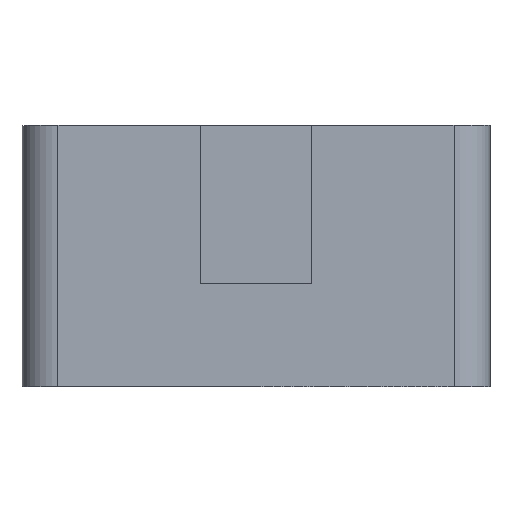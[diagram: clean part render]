
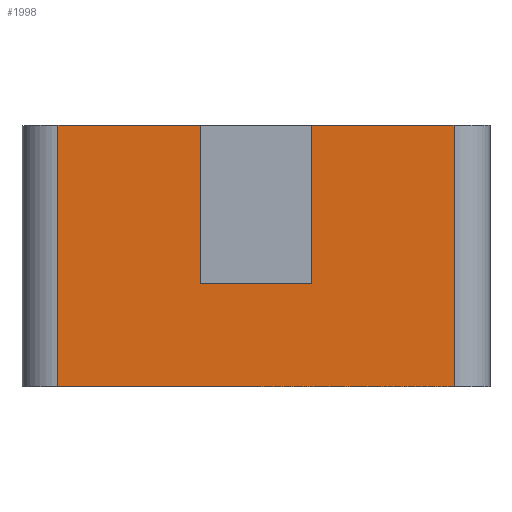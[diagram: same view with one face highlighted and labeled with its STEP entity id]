
A CAD part, left-side view. The second image highlights one B-rep face of the part: STEP entity #1998.
In plain terms, the highlighted planar face has unit normal (-1, 0, 0).
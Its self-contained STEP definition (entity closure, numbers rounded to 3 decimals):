
#44 = PLANE('',#45);
#45 = AXIS2_PLACEMENT_3D('',#46,#47,#48);
#46 = CARTESIAN_POINT('',(0.,0.,0.));
#47 = DIRECTION('',(0.,0.,1.));
#48 = DIRECTION('',(1.,0.,-0.));
#72 = CYLINDRICAL_SURFACE('',#73,4.);
#73 = AXIS2_PLACEMENT_3D('',#74,#75,#76);
#74 = CARTESIAN_POINT('',(-28.5,-22.,0.));
#75 = DIRECTION('',(0.,0.,1.));
#76 = DIRECTION('',(0.,-1.,0.));
#100 = PLANE('',#101);
#101 = AXIS2_PLACEMENT_3D('',#102,#103,#104);
#102 = CARTESIAN_POINT('',(0.,0.,29.));
#103 = DIRECTION('',(0.,0.,1.));
#104 = DIRECTION('',(1.,0.,-0.));
#475 = VERTEX_POINT('',#476);
#476 = CARTESIAN_POINT('',(-32.5,22.,0.));
#491 = CYLINDRICAL_SURFACE('',#492,4.);
#492 = AXIS2_PLACEMENT_3D('',#493,#494,#495);
#493 = CARTESIAN_POINT('',(-28.5,22.,0.));
#494 = DIRECTION('',(0.,0.,1.));
#495 = DIRECTION('',(-0.,1.,0.));
#503 = EDGE_CURVE('',#475,#504,#506,.T.);
#504 = VERTEX_POINT('',#505);
#505 = CARTESIAN_POINT('',(-32.5,-22.,0.));
#506 = SURFACE_CURVE('',#507,(#511,#518),.PCURVE_S1.);
#507 = LINE('',#508,#509);
#508 = CARTESIAN_POINT('',(-32.5,26.,0.));
#509 = VECTOR('',#510,1.);
#510 = DIRECTION('',(0.,-1.,0.));
#511 = PCURVE('',#44,#512);
#512 = DEFINITIONAL_REPRESENTATION('',(#513),#517);
#513 = LINE('',#514,#515);
#514 = CARTESIAN_POINT('',(-32.5,26.));
#515 = VECTOR('',#516,1.);
#516 = DIRECTION('',(0.,-1.));
#517 = ( GEOMETRIC_REPRESENTATION_CONTEXT(2) 
PARAMETRIC_REPRESENTATION_CONTEXT() REPRESENTATION_CONTEXT('2D SPACE',''
  ) );
#518 = PCURVE('',#519,#524);
#519 = PLANE('',#520);
#520 = AXIS2_PLACEMENT_3D('',#521,#522,#523);
#521 = CARTESIAN_POINT('',(-32.5,26.,0.));
#522 = DIRECTION('',(1.,0.,-0.));
#523 = DIRECTION('',(0.,-1.,0.));
#524 = DEFINITIONAL_REPRESENTATION('',(#525),#529);
#525 = LINE('',#526,#527);
#526 = CARTESIAN_POINT('',(0.,0.));
#527 = VECTOR('',#528,1.);
#528 = DIRECTION('',(1.,0.));
#529 = ( GEOMETRIC_REPRESENTATION_CONTEXT(2) 
PARAMETRIC_REPRESENTATION_CONTEXT() REPRESENTATION_CONTEXT('2D SPACE',''
  ) );
#561 = EDGE_CURVE('',#504,#562,#564,.T.);
#562 = VERTEX_POINT('',#563);
#563 = CARTESIAN_POINT('',(-32.5,-22.,29.));
#564 = SURFACE_CURVE('',#565,(#569,#576),.PCURVE_S1.);
#565 = LINE('',#566,#567);
#566 = CARTESIAN_POINT('',(-32.5,-22.,0.));
#567 = VECTOR('',#568,1.);
#568 = DIRECTION('',(0.,0.,1.));
#569 = PCURVE('',#72,#570);
#570 = DEFINITIONAL_REPRESENTATION('',(#571),#575);
#571 = LINE('',#572,#573);
#572 = CARTESIAN_POINT('',(-1.571,0.));
#573 = VECTOR('',#574,1.);
#574 = DIRECTION('',(-0.,1.));
#575 = ( GEOMETRIC_REPRESENTATION_CONTEXT(2) 
PARAMETRIC_REPRESENTATION_CONTEXT() REPRESENTATION_CONTEXT('2D SPACE',''
  ) );
#576 = PCURVE('',#519,#577);
#577 = DEFINITIONAL_REPRESENTATION('',(#578),#582);
#578 = LINE('',#579,#580);
#579 = CARTESIAN_POINT('',(48.,0.));
#580 = VECTOR('',#581,1.);
#581 = DIRECTION('',(0.,-1.));
#582 = ( GEOMETRIC_REPRESENTATION_CONTEXT(2) 
PARAMETRIC_REPRESENTATION_CONTEXT() REPRESENTATION_CONTEXT('2D SPACE',''
  ) );
#738 = VERTEX_POINT('',#739);
#739 = CARTESIAN_POINT('',(-32.5,22.,29.));
#761 = EDGE_CURVE('',#738,#762,#764,.T.);
#762 = VERTEX_POINT('',#763);
#763 = CARTESIAN_POINT('',(-32.5,6.2,29.));
#764 = SURFACE_CURVE('',#765,(#769,#776),.PCURVE_S1.);
#765 = LINE('',#766,#767);
#766 = CARTESIAN_POINT('',(-32.5,26.,29.));
#767 = VECTOR('',#768,1.);
#768 = DIRECTION('',(0.,-1.,0.));
#769 = PCURVE('',#100,#770);
#770 = DEFINITIONAL_REPRESENTATION('',(#771),#775);
#771 = LINE('',#772,#773);
#772 = CARTESIAN_POINT('',(-32.5,26.));
#773 = VECTOR('',#774,1.);
#774 = DIRECTION('',(0.,-1.));
#775 = ( GEOMETRIC_REPRESENTATION_CONTEXT(2) 
PARAMETRIC_REPRESENTATION_CONTEXT() REPRESENTATION_CONTEXT('2D SPACE',''
  ) );
#776 = PCURVE('',#519,#777);
#777 = DEFINITIONAL_REPRESENTATION('',(#778),#782);
#778 = LINE('',#779,#780);
#779 = CARTESIAN_POINT('',(0.,-29.));
#780 = VECTOR('',#781,1.);
#781 = DIRECTION('',(1.,0.));
#782 = ( GEOMETRIC_REPRESENTATION_CONTEXT(2) 
PARAMETRIC_REPRESENTATION_CONTEXT() REPRESENTATION_CONTEXT('2D SPACE',''
  ) );
#800 = PLANE('',#801);
#801 = AXIS2_PLACEMENT_3D('',#802,#803,#804);
#802 = CARTESIAN_POINT('',(-35.5,6.2,11.4));
#803 = DIRECTION('',(0.,1.,0.));
#804 = DIRECTION('',(0.,0.,1.));
#1161 = VERTEX_POINT('',#1162);
#1162 = CARTESIAN_POINT('',(-32.5,-6.2,29.));
#1176 = PLANE('',#1177);
#1177 = AXIS2_PLACEMENT_3D('',#1178,#1179,#1180);
#1178 = CARTESIAN_POINT('',(-35.5,-6.2,11.4));
#1179 = DIRECTION('',(0.,1.,0.));
#1180 = DIRECTION('',(0.,0.,1.));
#1187 = EDGE_CURVE('',#1161,#562,#1188,.T.);
#1188 = SURFACE_CURVE('',#1189,(#1193,#1200),.PCURVE_S1.);
#1189 = LINE('',#1190,#1191);
#1190 = CARTESIAN_POINT('',(-32.5,26.,29.));
#1191 = VECTOR('',#1192,1.);
#1192 = DIRECTION('',(0.,-1.,0.));
#1193 = PCURVE('',#100,#1194);
#1194 = DEFINITIONAL_REPRESENTATION('',(#1195),#1199);
#1195 = LINE('',#1196,#1197);
#1196 = CARTESIAN_POINT('',(-32.5,26.));
#1197 = VECTOR('',#1198,1.);
#1198 = DIRECTION('',(0.,-1.));
#1199 = ( GEOMETRIC_REPRESENTATION_CONTEXT(2) 
PARAMETRIC_REPRESENTATION_CONTEXT() REPRESENTATION_CONTEXT('2D SPACE',''
  ) );
#1200 = PCURVE('',#519,#1201);
#1201 = DEFINITIONAL_REPRESENTATION('',(#1202),#1206);
#1202 = LINE('',#1203,#1204);
#1203 = CARTESIAN_POINT('',(0.,-29.));
#1204 = VECTOR('',#1205,1.);
#1205 = DIRECTION('',(1.,0.));
#1206 = ( GEOMETRIC_REPRESENTATION_CONTEXT(2) 
PARAMETRIC_REPRESENTATION_CONTEXT() REPRESENTATION_CONTEXT('2D SPACE',''
  ) );
#1998 = ADVANCED_FACE('',(#1999),#519,.F.);
#1999 = FACE_BOUND('',#2000,.F.);
#2000 = EDGE_LOOP('',(#2001,#2002,#2023,#2024,#2045,#2071,#2090,#2091));
#2001 = ORIENTED_EDGE('',*,*,#503,.F.);
#2002 = ORIENTED_EDGE('',*,*,#2003,.T.);
#2003 = EDGE_CURVE('',#475,#738,#2004,.T.);
#2004 = SURFACE_CURVE('',#2005,(#2009,#2016),.PCURVE_S1.);
#2005 = LINE('',#2006,#2007);
#2006 = CARTESIAN_POINT('',(-32.5,22.,0.));
#2007 = VECTOR('',#2008,1.);
#2008 = DIRECTION('',(0.,0.,1.));
#2009 = PCURVE('',#519,#2010);
#2010 = DEFINITIONAL_REPRESENTATION('',(#2011),#2015);
#2011 = LINE('',#2012,#2013);
#2012 = CARTESIAN_POINT('',(4.,0.));
#2013 = VECTOR('',#2014,1.);
#2014 = DIRECTION('',(0.,-1.));
#2015 = ( GEOMETRIC_REPRESENTATION_CONTEXT(2) 
PARAMETRIC_REPRESENTATION_CONTEXT() REPRESENTATION_CONTEXT('2D SPACE',''
  ) );
#2016 = PCURVE('',#491,#2017);
#2017 = DEFINITIONAL_REPRESENTATION('',(#2018),#2022);
#2018 = LINE('',#2019,#2020);
#2019 = CARTESIAN_POINT('',(1.571,0.));
#2020 = VECTOR('',#2021,1.);
#2021 = DIRECTION('',(0.,1.));
#2022 = ( GEOMETRIC_REPRESENTATION_CONTEXT(2) 
PARAMETRIC_REPRESENTATION_CONTEXT() REPRESENTATION_CONTEXT('2D SPACE',''
  ) );
#2023 = ORIENTED_EDGE('',*,*,#761,.T.);
#2024 = ORIENTED_EDGE('',*,*,#2025,.F.);
#2025 = EDGE_CURVE('',#2026,#762,#2028,.T.);
#2026 = VERTEX_POINT('',#2027);
#2027 = CARTESIAN_POINT('',(-32.5,6.2,11.4));
#2028 = SURFACE_CURVE('',#2029,(#2033,#2039),.PCURVE_S1.);
#2029 = LINE('',#2030,#2031);
#2030 = CARTESIAN_POINT('',(-32.5,6.2,5.7));
#2031 = VECTOR('',#2032,1.);
#2032 = DIRECTION('',(0.,-0.,1.));
#2033 = PCURVE('',#519,#2034);
#2034 = DEFINITIONAL_REPRESENTATION('',(#2035),#2038);
#2035 = B_SPLINE_CURVE_WITH_KNOTS('',1,(#2036,#2037),.UNSPECIFIED.,.F.,
  .F.,(2,2),(5.7,23.3),.PIECEWISE_BEZIER_KNOTS.);
#2036 = CARTESIAN_POINT('',(19.8,-11.4));
#2037 = CARTESIAN_POINT('',(19.8,-29.));
#2038 = ( GEOMETRIC_REPRESENTATION_CONTEXT(2) 
PARAMETRIC_REPRESENTATION_CONTEXT() REPRESENTATION_CONTEXT('2D SPACE',''
  ) );
#2039 = PCURVE('',#800,#2040);
#2040 = DEFINITIONAL_REPRESENTATION('',(#2041),#2044);
#2041 = B_SPLINE_CURVE_WITH_KNOTS('',1,(#2042,#2043),.UNSPECIFIED.,.F.,
  .F.,(2,2),(5.7,23.3),.PIECEWISE_BEZIER_KNOTS.);
#2042 = CARTESIAN_POINT('',(0.,3.));
#2043 = CARTESIAN_POINT('',(17.6,3.));
#2044 = ( GEOMETRIC_REPRESENTATION_CONTEXT(2) 
PARAMETRIC_REPRESENTATION_CONTEXT() REPRESENTATION_CONTEXT('2D SPACE',''
  ) );
#2045 = ORIENTED_EDGE('',*,*,#2046,.T.);
#2046 = EDGE_CURVE('',#2026,#2047,#2049,.T.);
#2047 = VERTEX_POINT('',#2048);
#2048 = CARTESIAN_POINT('',(-32.5,-6.2,11.4));
#2049 = SURFACE_CURVE('',#2050,(#2054,#2060),.PCURVE_S1.);
#2050 = LINE('',#2051,#2052);
#2051 = CARTESIAN_POINT('',(-32.5,9.9,11.4));
#2052 = VECTOR('',#2053,1.);
#2053 = DIRECTION('',(0.,-1.,0.));
#2054 = PCURVE('',#519,#2055);
#2055 = DEFINITIONAL_REPRESENTATION('',(#2056),#2059);
#2056 = B_SPLINE_CURVE_WITH_KNOTS('',1,(#2057,#2058),.UNSPECIFIED.,.F.,
  .F.,(2,2),(3.7,16.1),.PIECEWISE_BEZIER_KNOTS.);
#2057 = CARTESIAN_POINT('',(19.8,-11.4));
#2058 = CARTESIAN_POINT('',(32.2,-11.4));
#2059 = ( GEOMETRIC_REPRESENTATION_CONTEXT(2) 
PARAMETRIC_REPRESENTATION_CONTEXT() REPRESENTATION_CONTEXT('2D SPACE',''
  ) );
#2060 = PCURVE('',#2061,#2066);
#2061 = PLANE('',#2062);
#2062 = AXIS2_PLACEMENT_3D('',#2063,#2064,#2065);
#2063 = CARTESIAN_POINT('',(-35.5,-6.2,11.4));
#2064 = DIRECTION('',(0.,0.,1.));
#2065 = DIRECTION('',(1.,0.,0.));
#2066 = DEFINITIONAL_REPRESENTATION('',(#2067),#2070);
#2067 = B_SPLINE_CURVE_WITH_KNOTS('',1,(#2068,#2069),.UNSPECIFIED.,.F.,
  .F.,(2,2),(3.7,16.1),.PIECEWISE_BEZIER_KNOTS.);
#2068 = CARTESIAN_POINT('',(3.,12.4));
#2069 = CARTESIAN_POINT('',(3.,0.));
#2070 = ( GEOMETRIC_REPRESENTATION_CONTEXT(2) 
PARAMETRIC_REPRESENTATION_CONTEXT() REPRESENTATION_CONTEXT('2D SPACE',''
  ) );
#2071 = ORIENTED_EDGE('',*,*,#2072,.T.);
#2072 = EDGE_CURVE('',#2047,#1161,#2073,.T.);
#2073 = SURFACE_CURVE('',#2074,(#2078,#2084),.PCURVE_S1.);
#2074 = LINE('',#2075,#2076);
#2075 = CARTESIAN_POINT('',(-32.5,-6.2,5.7));
#2076 = VECTOR('',#2077,1.);
#2077 = DIRECTION('',(0.,-0.,1.));
#2078 = PCURVE('',#519,#2079);
#2079 = DEFINITIONAL_REPRESENTATION('',(#2080),#2083);
#2080 = B_SPLINE_CURVE_WITH_KNOTS('',1,(#2081,#2082),.UNSPECIFIED.,.F.,
  .F.,(2,2),(5.7,23.3),.PIECEWISE_BEZIER_KNOTS.);
#2081 = CARTESIAN_POINT('',(32.2,-11.4));
#2082 = CARTESIAN_POINT('',(32.2,-29.));
#2083 = ( GEOMETRIC_REPRESENTATION_CONTEXT(2) 
PARAMETRIC_REPRESENTATION_CONTEXT() REPRESENTATION_CONTEXT('2D SPACE',''
  ) );
#2084 = PCURVE('',#1176,#2085);
#2085 = DEFINITIONAL_REPRESENTATION('',(#2086),#2089);
#2086 = B_SPLINE_CURVE_WITH_KNOTS('',1,(#2087,#2088),.UNSPECIFIED.,.F.,
  .F.,(2,2),(5.7,23.3),.PIECEWISE_BEZIER_KNOTS.);
#2087 = CARTESIAN_POINT('',(0.,3.));
#2088 = CARTESIAN_POINT('',(17.6,3.));
#2089 = ( GEOMETRIC_REPRESENTATION_CONTEXT(2) 
PARAMETRIC_REPRESENTATION_CONTEXT() REPRESENTATION_CONTEXT('2D SPACE',''
  ) );
#2090 = ORIENTED_EDGE('',*,*,#1187,.T.);
#2091 = ORIENTED_EDGE('',*,*,#561,.F.);
